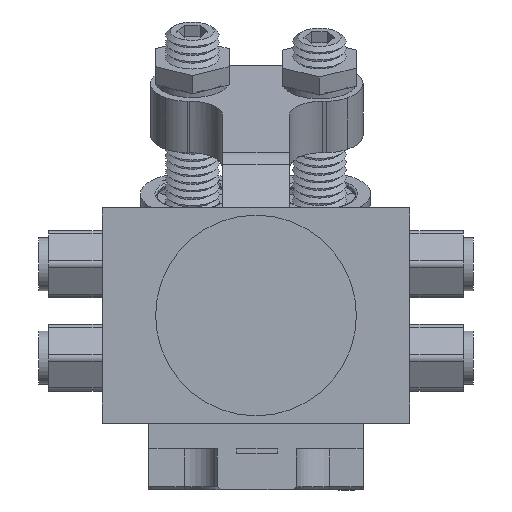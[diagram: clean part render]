
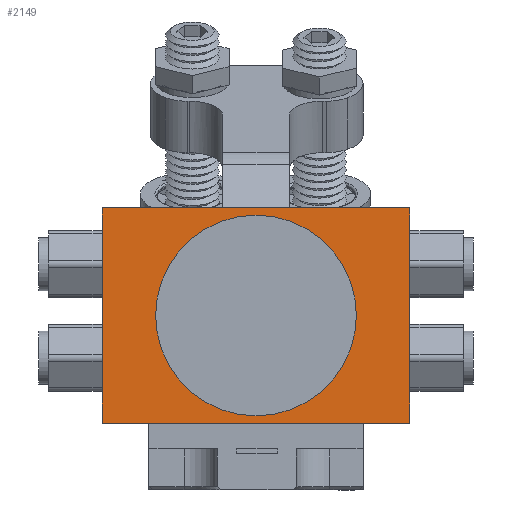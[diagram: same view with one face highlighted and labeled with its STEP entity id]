
A CAD part, left-side view. The second image highlights one B-rep face of the part: STEP entity #2149.
In plain terms, the highlighted planar face has unit normal (-1, 0, 0).
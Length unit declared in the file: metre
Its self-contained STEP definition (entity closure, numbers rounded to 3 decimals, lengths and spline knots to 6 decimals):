
#2149=ADVANCED_FACE('',(#4860,#4861),#4862,.F.);
#4860=FACE_BOUND('',#8202,.T.);
#4861=FACE_OUTER_BOUND('',#8203,.T.);
#4862=PLANE('',#8204);
#8202=EDGE_LOOP('',(#14443));
#8203=EDGE_LOOP('',(#14444,#14445,#14446,#14447,#14448,#14449,#14450,#14451));
#8204=AXIS2_PLACEMENT_3D('',#14452,#14453,#14454);
#14443=ORIENTED_EDGE('',*,*,#16861,.T.);
#14444=ORIENTED_EDGE('',*,*,#16891,.T.);
#14445=ORIENTED_EDGE('',*,*,#16962,.T.);
#14446=ORIENTED_EDGE('',*,*,#16893,.T.);
#14447=ORIENTED_EDGE('',*,*,#16504,.F.);
#14448=ORIENTED_EDGE('',*,*,#16874,.F.);
#14449=ORIENTED_EDGE('',*,*,#16310,.F.);
#14450=ORIENTED_EDGE('',*,*,#16876,.F.);
#14451=ORIENTED_EDGE('',*,*,#17737,.T.);
#14452=CARTESIAN_POINT('',(0.,0.016,-0.01608));
#14453=DIRECTION('',(1.0,0.,0.));
#14454=DIRECTION('',(0.,-1.0,0.0));
#16310=EDGE_CURVE('',#18553,#18520,#18557,.F.);
#16504=EDGE_CURVE('',#18839,#18841,#18842,.T.);
#16861=EDGE_CURVE('',#19344,#19344,#19345,.T.);
#16874=EDGE_CURVE('',#18520,#18839,#19362,.F.);
#16876=EDGE_CURVE('',#19363,#18553,#19365,.F.);
#16891=EDGE_CURVE('',#19388,#19386,#19389,.F.);
#16893=EDGE_CURVE('',#19391,#18841,#19392,.F.);
#16962=EDGE_CURVE('',#19386,#19391,#19498,.F.);
#17737=EDGE_CURVE('',#19363,#19388,#20518,.T.);
#18520=VERTEX_POINT('',#21781);
#18553=VERTEX_POINT('',#21825);
#18557=LINE('',#21831,#21832);
#18839=VERTEX_POINT('',#22219);
#18841=VERTEX_POINT('',#22222);
#18842=LINE('',#22223,#22224);
#19344=VERTEX_POINT('',#22960);
#19345=CIRCLE('',#22961,0.015);
#19362=LINE('',#22984,#22985);
#19363=VERTEX_POINT('',#22986);
#19365=LINE('',#22989,#22990);
#19386=VERTEX_POINT('',#23017);
#19388=VERTEX_POINT('',#23020);
#19389=LINE('',#23021,#23022);
#19391=VERTEX_POINT('',#23025);
#19392=LINE('',#23026,#23027);
#19498=LINE('',#23162,#23163);
#20518=LINE('',#24694,#24695);
#21781=CARTESIAN_POINT('',(0.,-0.007,-0.009047));
#21825=CARTESIAN_POINT('',(0.,-0.007,-0.007753));
#21831=CARTESIAN_POINT('',(0.,-0.007,-0.01691));
#21832=VECTOR('',#28107,1.0);
#22219=CARTESIAN_POINT('',(0.,-0.007,-0.03216));
#22222=CARTESIAN_POINT('',(0.,0.039,-0.03216));
#22223=CARTESIAN_POINT('',(0.,0.016,-0.03216));
#22224=VECTOR('',#28338,1.0);
#22960=CARTESIAN_POINT('',(0.,0.001,-0.01608));
#22961=AXIS2_PLACEMENT_3D('',#28731,#28732,#28733);
#22984=CARTESIAN_POINT('',(0.,-0.007,-0.01691));
#22985=VECTOR('',#28746,1.0);
#22986=CARTESIAN_POINT('',(0.,-0.007,0.));
#22989=CARTESIAN_POINT('',(0.,-0.007,-0.01691));
#22990=VECTOR('',#28748,1.0);
#23017=CARTESIAN_POINT('',(0.,0.039,-0.007753));
#23020=CARTESIAN_POINT('',(0.,0.039,0.));
#23021=CARTESIAN_POINT('',(0.,0.039,-0.01691));
#23022=VECTOR('',#28768,1.0);
#23025=CARTESIAN_POINT('',(0.,0.039,-0.009047));
#23026=CARTESIAN_POINT('',(0.,0.039,-0.01691));
#23027=VECTOR('',#28770,1.0);
#23162=CARTESIAN_POINT('',(0.,0.039,-0.01691));
#23163=VECTOR('',#28863,1.0);
#24694=CARTESIAN_POINT('',(0.,-0.026,0.));
#24695=VECTOR('',#29634,1.0);
#28107=DIRECTION('',(0.,0.,1.0));
#28338=DIRECTION('',(0.,1.0,0.0));
#28731=CARTESIAN_POINT('',(0.,0.016,-0.01608));
#28732=DIRECTION('',(1.0,0.,0.));
#28733=DIRECTION('',(0.,-1.0,0.0));
#28746=DIRECTION('',(0.,0.,1.0));
#28748=DIRECTION('',(0.,0.,1.0));
#28768=DIRECTION('',(0.,0.,1.0));
#28770=DIRECTION('',(0.,0.,1.0));
#28863=DIRECTION('',(0.,0.,1.0));
#29634=DIRECTION('',(0.,1.0,0.0));
